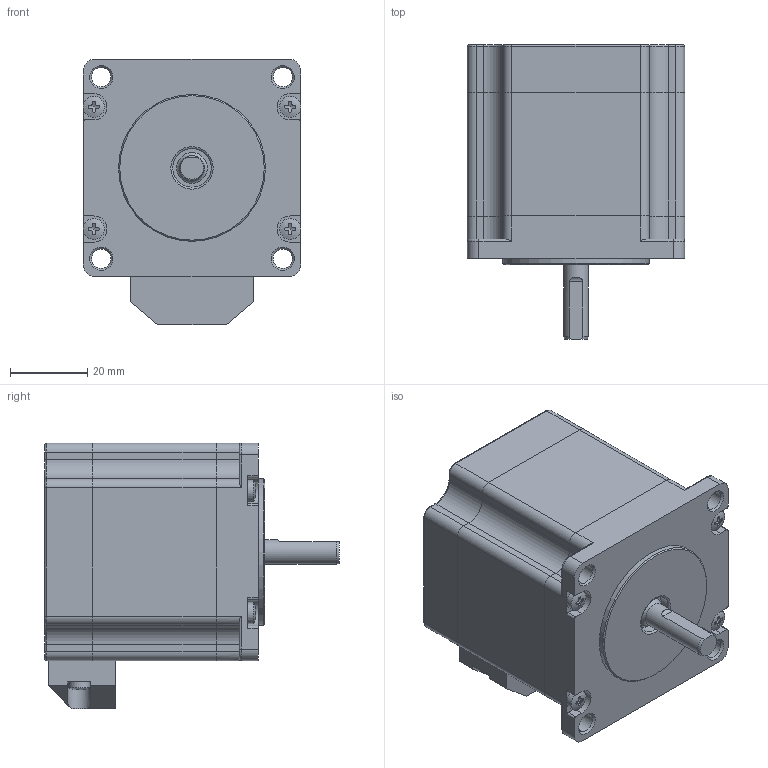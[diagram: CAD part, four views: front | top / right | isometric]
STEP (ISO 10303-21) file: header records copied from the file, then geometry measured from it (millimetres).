
FILE_DESCRIPTION( ('This file contains a STEP AP42 implementation' ,'as created by ZW3D STEP Interface translator.' ,'') ,'2;1' );
FILE_NAME( 'AM510A-57A0120-0000.stp' ,'24 724.165942', (''), ('ZWCAD Software Co.'), 'Version 1.0', 'ZW3D to STEP translator', '' );
FILE_SCHEMA(('AUTOMOTIVE_DESIGN { 1 0 10303 214 1 1 1 1 }'));
Length unit declared in the file: millimetre
Products named in the file (5): 0; 57HS056DF090X-12; 57HS056DF090X-12(默认); 蹟隊 GB_T 823-M3x30_2; 蹟隊 GB_T 823-M3x8
Assembly tree (7 placements, depth 2):
  0
  57HS056DF090X-12
    57HS056DF090X-12(默认)
    蹟隊 GB_T 823-M3x30_2  x4
    蹟隊 GB_T 823-M3x8  x2
Bounding box: 56.44 x 76.5 x 68.9 mm (x, y, z)
Volume: 167537.7 mm3; surface area: 35100.9 mm2
Topology: 12 solids, 12 shells, 340 faces, 855 edges, 542 vertices
Faces by surface type: plane 143, cylinder 141, cone 25, torus 25, sphere 6
Full cylindrical faces by diameter (mm): 2.5 x8, 3 x12, 3.2 x6, 5 x4, 5.5 x6, 6.35 x1, 8 x2, 10 x2, 38.1 x1
Entity records: 8363 total; most frequent: CARTESIAN_POINT 1490, DIRECTION 1427, ORIENTED_EDGE 1298, EDGE_CURVE 649, AXIS2_PLACEMENT_3D 545, VERTEX_POINT 414, VECTOR 337, LINE 337
